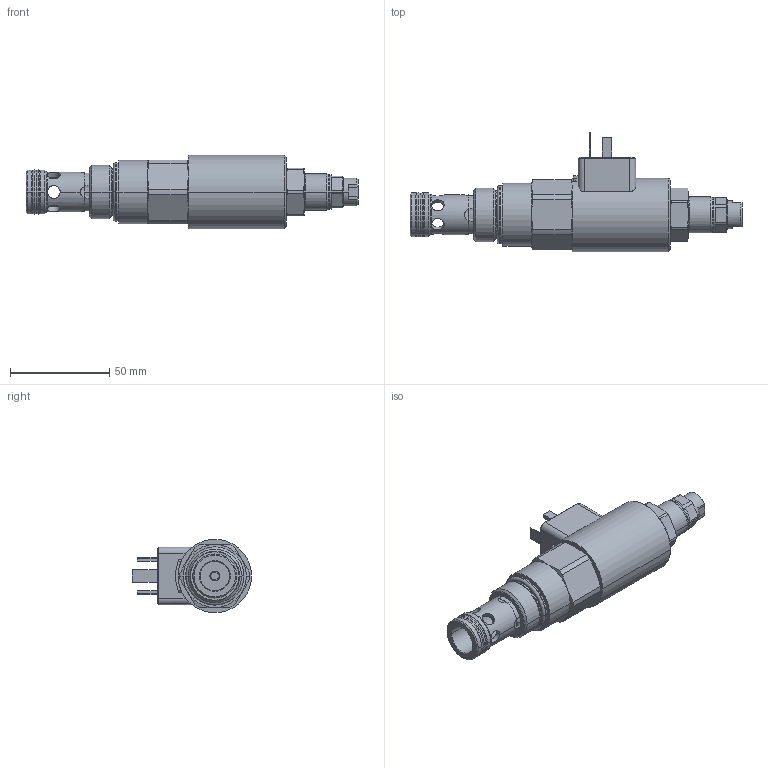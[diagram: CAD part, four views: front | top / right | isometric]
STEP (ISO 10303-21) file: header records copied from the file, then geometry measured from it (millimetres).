
FILE_DESCRIPTION((''),'2;1');
FILE_NAME('445495_AD_ASM','2023-11-01T',('l.soukupova'),(''),'PRO/ENGINEER BY PARAMETRIC TECHNOLOGY CORPORATION, 2015440','PRO/ENGINEER BY PARAMETRIC TECHNOLOGY CORPORATION, 2015440','');
FILE_SCHEMA(('AUTOMOTIVE_DESIGN { 1 0 10303 214 1 1 1 1 }'));
Length unit declared in the file: millimetre
Products named in the file (23): 445494; 444924; ORAR00912_201313; SSA02222196238C0_341807; 28040202; 943_0040_LIS; 28043501_SESTAVA; 28043901_SESTAVA_ASM; 28044101; 288760; 28043601; 28043801; CSN_022925_10_AF3; OR1000600_201181; OR1501200_201221; 28044301_AF1_ASM; 29311700; 28044001_AF0_ASM; C19B_01200E1_4_98NA; OR1501800_201319; 28095401; 31788900; 445495_AD_ASM
Assembly tree (22 placements, depth 4):
  445495_AD_ASM
    445494
    444924
    ORAR00912_201313
    SSA02222196238C0_341807
    28044001_AF0_ASM
      28043901_SESTAVA_ASM
        28040202
        943_0040_LIS
        28043501_SESTAVA
      28044301_AF1_ASM
        28044101
        288760
        28043601
        28043801
        CSN_022925_10_AF3
        OR1000600_201181
        OR1501200_201221
      29311700
    C19B_01200E1_4_98NA
    OR1501800_201319
    28095401
    31788900
Bounding box: 167.3 x 60 x 37 mm (x, y, z)
Volume: 105301.1 mm3; surface area: 53398.2 mm2
Topology: 19 solids, 40 shells, 689 faces, 1643 edges, 1071 vertices
Faces by surface type: cylinder 241, cone 177, plane 171, torus 96, sphere 4
Entity records: 30489 total; most frequent: CARTESIAN_POINT 5665, DIRECTION 3999, ORIENTED_EDGE 3062, PRESENTATION_STYLE_ASSIGNMENT 1847, STYLED_ITEM 1747, CURVE_STYLE 1669, AXIS2_PLACEMENT_3D 1664, EDGE_CURVE 1577
